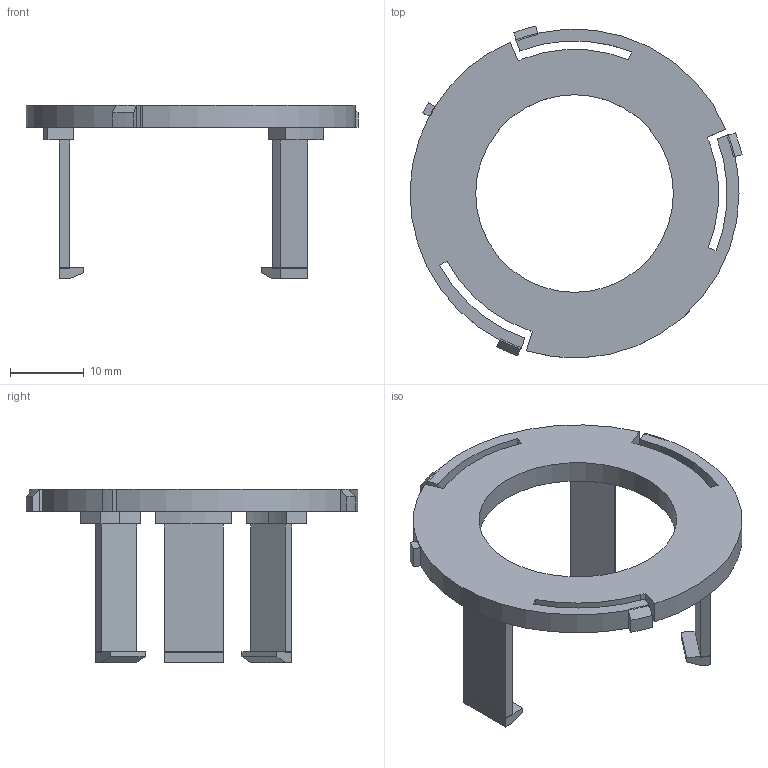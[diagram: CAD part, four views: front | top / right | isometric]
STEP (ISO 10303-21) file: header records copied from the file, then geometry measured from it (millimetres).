
FILE_DESCRIPTION(('Open CASCADE Model'),'2;1');
FILE_NAME('Open CASCADE Shape Model','2026-09-10T01:09:57',('Author'),( 'Open CASCADE'),'Open CASCADE STEP processor 7.9','Open CASCADE 7.9' ,'Unknown');
FILE_SCHEMA(('AUTOMOTIVE_DESIGN { 1 0 10303 214 1 1 1 1 }'));
Length unit declared in the file: millimetre
Products named in the file (1): Open CASCADE STEP translator 7.9 1
Bounding box: 45 x 44.98 x 23.5 mm (x, y, z)
Volume: 3567.7 mm3; surface area: 4018.6 mm2
Topology: 1 solids, 1 shells, 117 faces, 296 edges, 184 vertices
Faces by surface type: plane 83, cylinder 31, cone 3
Full cylindrical faces by diameter (mm): 26.8 x1
Entity records: 3494 total; most frequent: DIRECTION 610, CARTESIAN_POINT 601, ORIENTED_EDGE 592, EDGE_CURVE 296, LINE 218, VECTOR 218, AXIS2_PLACEMENT_3D 196, VERTEX_POINT 187
